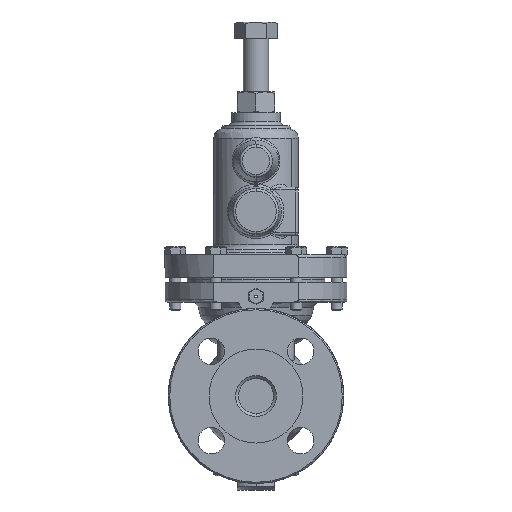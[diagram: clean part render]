
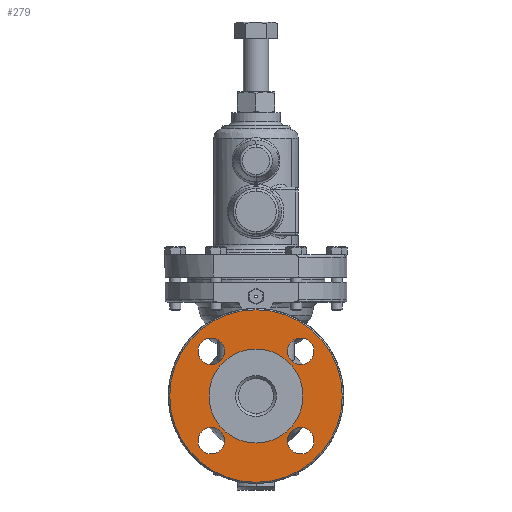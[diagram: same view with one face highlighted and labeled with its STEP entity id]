
A CAD part, left-side view. The second image highlights one B-rep face of the part: STEP entity #279.
In plain terms, the highlighted planar face has unit normal (-1, 0, 0).
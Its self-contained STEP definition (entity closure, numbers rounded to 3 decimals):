
#279=ADVANCED_FACE('',(#1978,#1979,#1980,#1981,#1982,#1983),#1977,.T.);
#1977=PLANE('',#7686);
#1978=FACE_OUTER_BOUND('',#7687,.T.);
#1979=FACE_BOUND('',#7688,.T.);
#1980=FACE_BOUND('',#7689,.T.);
#1981=FACE_BOUND('',#7690,.T.);
#1982=FACE_BOUND('',#7691,.T.);
#1983=FACE_BOUND('',#7692,.T.);
#7683=CARTESIAN_POINT('',(-74.,-116.521,-133.));
#7684=DIRECTION('',(-1.,0.,0.));
#7685=DIRECTION('',(0.,0.,1.));
#7686=AXIS2_PLACEMENT_3D('',#7683,#7684,#7685);
#7687=EDGE_LOOP('',(#13313,#13314));
#7688=EDGE_LOOP('',(#13315,#13316));
#7689=EDGE_LOOP('',(#13317,#13318));
#7690=EDGE_LOOP('',(#13319,#13320));
#7691=EDGE_LOOP('',(#13321,#13322));
#7692=EDGE_LOOP('',(#13323,#13324));
#13313=ORIENTED_EDGE('',*,*,#15692,.F.);
#13314=ORIENTED_EDGE('',*,*,#15693,.F.);
#13315=ORIENTED_EDGE('',*,*,#15694,.F.);
#13316=ORIENTED_EDGE('',*,*,#15695,.F.);
#13317=ORIENTED_EDGE('',*,*,#15696,.T.);
#13318=ORIENTED_EDGE('',*,*,#15697,.T.);
#13319=ORIENTED_EDGE('',*,*,#15698,.T.);
#13320=ORIENTED_EDGE('',*,*,#15699,.T.);
#13321=ORIENTED_EDGE('',*,*,#15700,.T.);
#13322=ORIENTED_EDGE('',*,*,#15701,.T.);
#13323=ORIENTED_EDGE('',*,*,#15702,.T.);
#13324=ORIENTED_EDGE('',*,*,#15703,.T.);
#15692=EDGE_CURVE('',#19982,#19983,#19984,.T.);
#15693=EDGE_CURVE('',#19983,#19982,#19990,.T.);
#15694=EDGE_CURVE('',#19996,#19997,#19998,.T.);
#15695=EDGE_CURVE('',#19997,#19996,#20004,.T.);
#15696=EDGE_CURVE('',#20010,#20011,#20012,.T.);
#15697=EDGE_CURVE('',#20011,#20010,#20018,.T.);
#15698=EDGE_CURVE('',#20024,#20025,#20026,.T.);
#15699=EDGE_CURVE('',#20025,#20024,#20032,.T.);
#15700=EDGE_CURVE('',#20038,#20039,#20040,.T.);
#15701=EDGE_CURVE('',#20039,#20038,#20046,.T.);
#15702=EDGE_CURVE('',#20052,#20053,#20054,.T.);
#15703=EDGE_CURVE('',#20053,#20052,#20060,.T.);
#19982=VERTEX_POINT('',#29145);
#19983=VERTEX_POINT('',#29146);
#19984=CIRCLE('',#29150,61.5);
#19990=CIRCLE('',#29154,61.5);
#19996=VERTEX_POINT('',#29155);
#19997=VERTEX_POINT('',#29156);
#19998=CIRCLE('',#29160,33.5);
#20004=CIRCLE('',#29164,33.5);
#20010=VERTEX_POINT('',#29165);
#20011=VERTEX_POINT('',#29166);
#20012=CIRCLE('',#29170,9.5);
#20018=CIRCLE('',#29174,9.5);
#20024=VERTEX_POINT('',#29175);
#20025=VERTEX_POINT('',#29176);
#20026=CIRCLE('',#29180,9.5);
#20032=CIRCLE('',#29184,9.5);
#20038=VERTEX_POINT('',#29185);
#20039=VERTEX_POINT('',#29186);
#20040=CIRCLE('',#29190,9.5);
#20046=CIRCLE('',#29194,9.5);
#20052=VERTEX_POINT('',#29195);
#20053=VERTEX_POINT('',#29196);
#20054=CIRCLE('',#29200,9.5);
#20060=CIRCLE('',#29204,9.5);
#29145=CARTESIAN_POINT('',(-74.,0.,-61.5));
#29146=CARTESIAN_POINT('',(-74.,0.,61.5));
#29147=CARTESIAN_POINT('',(-74.,0.,0.));
#29148=DIRECTION('',(1.,0.,0.));
#29149=DIRECTION('',(0.,0.,1.));
#29150=AXIS2_PLACEMENT_3D('',#29147,#29148,#29149);
#29151=CARTESIAN_POINT('',(-74.,0.,0.));
#29152=DIRECTION('',(1.,0.,0.));
#29153=DIRECTION('',(0.,0.,1.));
#29154=AXIS2_PLACEMENT_3D('',#29151,#29152,#29153);
#29155=CARTESIAN_POINT('',(-74.,0.,-33.5));
#29156=CARTESIAN_POINT('',(-74.,0.,33.5));
#29157=CARTESIAN_POINT('',(-74.,0.,0.));
#29158=DIRECTION('',(-1.,0.,0.));
#29159=DIRECTION('',(0.,0.,1.));
#29160=AXIS2_PLACEMENT_3D('',#29157,#29158,#29159);
#29161=CARTESIAN_POINT('',(-74.,0.,0.));
#29162=DIRECTION('',(-1.,0.,0.));
#29163=DIRECTION('',(0.,0.,1.));
#29164=AXIS2_PLACEMENT_3D('',#29161,#29162,#29163);
#29165=CARTESIAN_POINT('',(-74.,31.82,-22.32));
#29166=CARTESIAN_POINT('',(-74.,31.82,-41.32));
#29167=CARTESIAN_POINT('',(-74.,31.82,-31.82));
#29168=DIRECTION('',(1.,0.,0.));
#29169=DIRECTION('',(0.,0.,1.));
#29170=AXIS2_PLACEMENT_3D('',#29167,#29168,#29169);
#29171=CARTESIAN_POINT('',(-74.,31.82,-31.82));
#29172=DIRECTION('',(1.,0.,0.));
#29173=DIRECTION('',(0.,0.,1.));
#29174=AXIS2_PLACEMENT_3D('',#29171,#29172,#29173);
#29175=CARTESIAN_POINT('',(-74.,-31.82,41.32));
#29176=CARTESIAN_POINT('',(-74.,-31.82,22.32));
#29177=CARTESIAN_POINT('',(-74.,-31.82,31.82));
#29178=DIRECTION('',(1.,0.,0.));
#29179=DIRECTION('',(0.,0.,1.));
#29180=AXIS2_PLACEMENT_3D('',#29177,#29178,#29179);
#29181=CARTESIAN_POINT('',(-74.,-31.82,31.82));
#29182=DIRECTION('',(1.,0.,0.));
#29183=DIRECTION('',(0.,0.,1.));
#29184=AXIS2_PLACEMENT_3D('',#29181,#29182,#29183);
#29185=CARTESIAN_POINT('',(-74.,31.82,41.32));
#29186=CARTESIAN_POINT('',(-74.,31.82,22.32));
#29187=CARTESIAN_POINT('',(-74.,31.82,31.82));
#29188=DIRECTION('',(1.,0.,0.));
#29189=DIRECTION('',(0.,0.,1.));
#29190=AXIS2_PLACEMENT_3D('',#29187,#29188,#29189);
#29191=CARTESIAN_POINT('',(-74.,31.82,31.82));
#29192=DIRECTION('',(1.,0.,0.));
#29193=DIRECTION('',(0.,0.,1.));
#29194=AXIS2_PLACEMENT_3D('',#29191,#29192,#29193);
#29195=CARTESIAN_POINT('',(-74.,-31.82,-22.32));
#29196=CARTESIAN_POINT('',(-74.,-31.82,-41.32));
#29197=CARTESIAN_POINT('',(-74.,-31.82,-31.82));
#29198=DIRECTION('',(1.,0.,0.));
#29199=DIRECTION('',(0.,0.,1.));
#29200=AXIS2_PLACEMENT_3D('',#29197,#29198,#29199);
#29201=CARTESIAN_POINT('',(-74.,-31.82,-31.82));
#29202=DIRECTION('',(1.,0.,0.));
#29203=DIRECTION('',(0.,0.,1.));
#29204=AXIS2_PLACEMENT_3D('',#29201,#29202,#29203);
